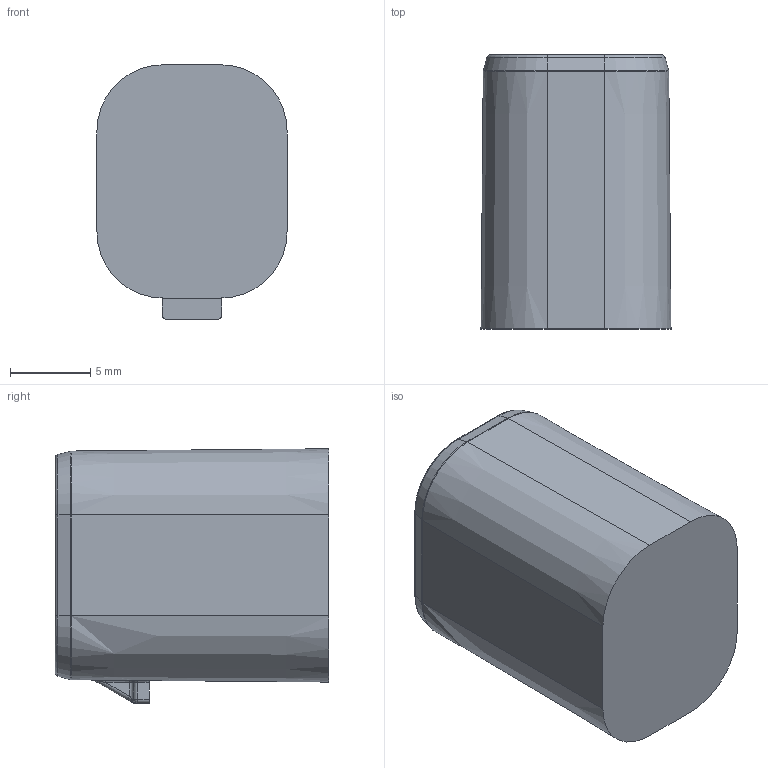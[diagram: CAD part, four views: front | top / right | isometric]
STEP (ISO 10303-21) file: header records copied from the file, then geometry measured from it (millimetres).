
FILE_DESCRIPTION(('CATIA V6 STEP','CAx-IF Rec.Pracs.--- Model Styling and Organization---1.5--- 2016-08-15','CAx-IF Rec.Pracs.---Supplemental Geometry---1.0---2011-11-01','CAx-IF Rec.Pracs.---Representation and Presentation of Product Manufacturing Information (PMI)---4.0---2014-10-13','CAx-IF Rec.Pracs.---User Defined Attributes---1.5---2016-08-15','CAx-IF Rec.Pracs.--- Composite Materials ---3.4---2017-06-13','CAx-IF Rec.Pracs.---Tessellated 3D Geometry---1.0---2015-12-17'),'2;1');
FILE_NAME('\\?\C:\root\24D718E808000000694097AD001533E8.stp','2025-12-23T00:57:06+00:00',('none'),('none'),'3DEXPERIENCE Platform3DEXPERIENCE R2021x HotFix 10','3DEXPERIENCE Platform STEP AP242 v2','none');
FILE_SCHEMA(('AP242_MANAGED_MODEL_BASED_3D_ENGINEERING_MIM_LF {1 0 10303 442 1 1 4}'));
Length unit declared in the file: millimetre
Products named in the file (1): LV CONN,2LP,INTERFACE
Bounding box: 11.86 x 17.1 x 15.88 mm (x, y, z)
Surface area: 6455.9 mm2
Topology: 4 solids, 4 shells, 864 faces, 1928 edges, 1060 vertices
Faces by surface type: plane 284, cylinder 231, torus 120, cone 96, bspline 85, sphere 32, extrusion 16
Entity records: 28285 total; most frequent: CARTESIAN_POINT 10781, ORIENTED_EDGE 3792, DIRECTION 3024, EDGE_CURVE 1896, AXIS2_PLACEMENT_3D 1347, VERTEX_POINT 1060, VECTOR 942, LINE 926
